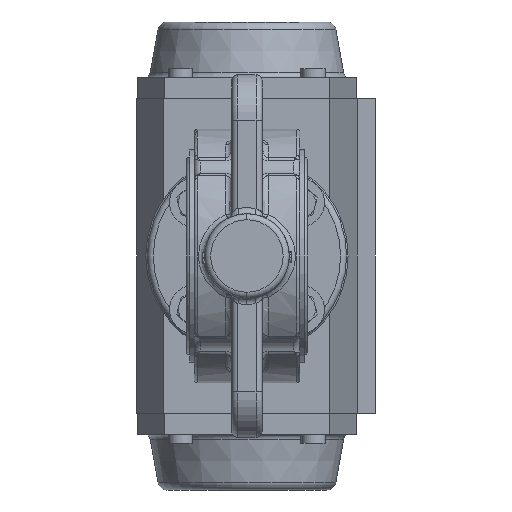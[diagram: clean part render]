
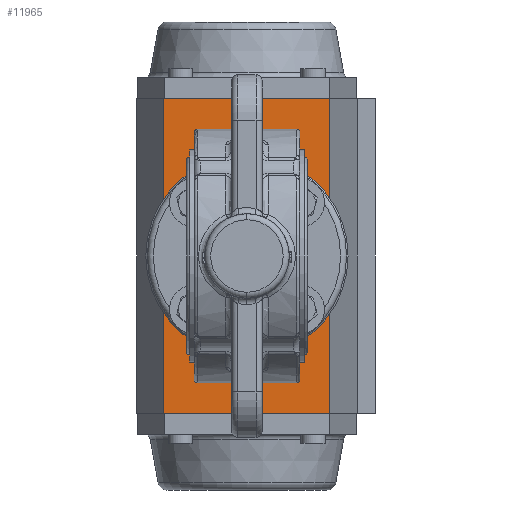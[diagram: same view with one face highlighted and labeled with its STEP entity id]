
A CAD part, front view. The second image highlights one B-rep face of the part: STEP entity #11965.
In plain terms, the highlighted planar face has unit normal (0, -1, 0).
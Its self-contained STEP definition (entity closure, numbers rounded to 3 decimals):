
#33 = LINE ( 'NONE', #4617, #42858 ) ;
#215 = DIRECTION ( 'NONE',  ( 0., 0., -1. ) ) ;
#750 = CARTESIAN_POINT ( 'NONE',  ( -27.5, -41.5, 52. ) ) ;
#1321 = ORIENTED_EDGE ( 'NONE', *, *, #7515, .F. ) ;
#1385 = CARTESIAN_POINT ( 'NONE',  ( -27.5, -41.5, 52. ) ) ;
#1730 = DIRECTION ( 'NONE',  ( 0., -1., 0. ) ) ;
#2357 = CARTESIAN_POINT ( 'NONE',  ( 0., -41.5, -15. ) ) ;
#2567 = AXIS2_PLACEMENT_3D ( 'NONE', #40681, #20516, #215 ) ;
#2726 = CARTESIAN_POINT ( 'NONE',  ( -17.678, -41.5, 17.678 ) ) ;
#2765 = EDGE_CURVE ( 'NONE', #33644, #8585, #14783, .T. ) ;
#2951 = FACE_BOUND ( 'NONE', #16725, .T. ) ;
#3240 = AXIS2_PLACEMENT_3D ( 'NONE', #21992, #1730, #25373 ) ;
#3972 = EDGE_CURVE ( 'NONE', #22118, #15610, #17526, .T. ) ;
#4253 = CARTESIAN_POINT ( 'NONE',  ( 17.678, -41.5, 20.178 ) ) ;
#4617 = CARTESIAN_POINT ( 'NONE',  ( -27.5, -41.5, -52. ) ) ;
#4706 = DIRECTION ( 'NONE',  ( 0., -1., 0. ) ) ;
#4765 = DIRECTION ( 'NONE',  ( 0., -1., 0. ) ) ;
#5081 = CARTESIAN_POINT ( 'NONE',  ( 17.678, -41.5, -20.178 ) ) ;
#5779 = CARTESIAN_POINT ( 'NONE',  ( 27.5, -41.5, -52. ) ) ;
#6090 = DIRECTION ( 'NONE',  ( 0., 0., -1. ) ) ;
#6101 = EDGE_LOOP ( 'NONE', ( #28034, #7208 ) ) ;
#6363 = CARTESIAN_POINT ( 'NONE',  ( 17.678, -41.5, 15.178 ) ) ;
#7020 = AXIS2_PLACEMENT_3D ( 'NONE', #31965, #11790, #35376 ) ;
#7200 = DIRECTION ( 'NONE',  ( 0., -1., 0. ) ) ;
#7208 = ORIENTED_EDGE ( 'NONE', *, *, #43588, .F. ) ;
#7515 = EDGE_CURVE ( 'NONE', #20284, #40256, #23952, .T. ) ;
#7932 = DIRECTION ( 'NONE',  ( 0., -1., 0. ) ) ;
#8170 = DIRECTION ( 'NONE',  ( 1., 0., 0. ) ) ;
#8314 = VERTEX_POINT ( 'NONE', #15871 ) ;
#8585 = VERTEX_POINT ( 'NONE', #4253 ) ;
#8657 = VERTEX_POINT ( 'NONE', #38225 ) ;
#10666 = CARTESIAN_POINT ( 'NONE',  ( -27.5, -41.5, -52. ) ) ;
#10905 = FACE_BOUND ( 'NONE', #19598, .T. ) ;
#11083 = ORIENTED_EDGE ( 'NONE', *, *, #15043, .F. ) ;
#11213 = VERTEX_POINT ( 'NONE', #2357 ) ;
#11398 = DIRECTION ( 'NONE',  ( 0., -1., 0. ) ) ;
#11790 = DIRECTION ( 'NONE',  ( 0., -1., 0. ) ) ;
#11965 = ADVANCED_FACE ( 'NONE', ( #28854, #20979, #2951, #19933, #10905, #37826 ), #31591, .T. ) ;
#12274 = LINE ( 'NONE', #30039, #20221 ) ;
#14237 = ORIENTED_EDGE ( 'NONE', *, *, #14401, .F. ) ;
#14401 = EDGE_CURVE ( 'NONE', #31559, #22118, #17989, .T. ) ;
#14528 = ORIENTED_EDGE ( 'NONE', *, *, #32652, .T. ) ;
#14658 = CARTESIAN_POINT ( 'NONE',  ( -27.5, -41.5, -52. ) ) ;
#14748 = DIRECTION ( 'NONE',  ( 0., -1., 0. ) ) ;
#14783 = CIRCLE ( 'NONE', #19881, 2.5 ) ;
#14948 = CIRCLE ( 'NONE', #38170, 2.5 ) ;
#15043 = EDGE_CURVE ( 'NONE', #8657, #11213, #30060, .T. ) ;
#15202 = DIRECTION ( 'NONE',  ( 0., -1., 0. ) ) ;
#15610 = VERTEX_POINT ( 'NONE', #34160 ) ;
#15871 = CARTESIAN_POINT ( 'NONE',  ( -17.678, -41.5, -15.178 ) ) ;
#16725 = EDGE_LOOP ( 'NONE', ( #34327, #33596 ) ) ;
#17526 = LINE ( 'NONE', #1385, #34385 ) ;
#17776 = ORIENTED_EDGE ( 'NONE', *, *, #34506, .F. ) ;
#17797 = VERTEX_POINT ( 'NONE', #5081 ) ;
#17937 = CIRCLE ( 'NONE', #21578, 2.5 ) ;
#17974 = EDGE_CURVE ( 'NONE', #27233, #8314, #43140, .T. ) ;
#17989 = LINE ( 'NONE', #10666, #34845 ) ;
#18365 = CIRCLE ( 'NONE', #42908, 15. ) ;
#18501 = CARTESIAN_POINT ( 'NONE',  ( 17.678, -41.5, -15.178 ) ) ;
#19066 = AXIS2_PLACEMENT_3D ( 'NONE', #14658, #11398, #34990 ) ;
#19598 = EDGE_LOOP ( 'NONE', ( #23308, #11083 ) ) ;
#19881 = AXIS2_PLACEMENT_3D ( 'NONE', #25022, #4765, #28405 ) ;
#19933 = FACE_BOUND ( 'NONE', #33332, .T. ) ;
#20221 = VECTOR ( 'NONE', #23286, 1000. ) ;
#20284 = VERTEX_POINT ( 'NONE', #39517 ) ;
#20516 = DIRECTION ( 'NONE',  ( 0., -1., 0. ) ) ;
#20874 = DIRECTION ( 'NONE',  ( 0., 0., 1. ) ) ;
#20979 = FACE_BOUND ( 'NONE', #6101, .T. ) ;
#21578 = AXIS2_PLACEMENT_3D ( 'NONE', #35396, #15202, #38783 ) ;
#21992 = CARTESIAN_POINT ( 'NONE',  ( 17.678, -41.5, -17.678 ) ) ;
#22118 = VERTEX_POINT ( 'NONE', #750 ) ;
#22341 = AXIS2_PLACEMENT_3D ( 'NONE', #34933, #14748, #38331 ) ;
#22762 = EDGE_LOOP ( 'NONE', ( #26869, #17776 ) ) ;
#23286 = DIRECTION ( 'NONE',  ( 0., 0., 1. ) ) ;
#23308 = ORIENTED_EDGE ( 'NONE', *, *, #29643, .F. ) ;
#23367 = ORIENTED_EDGE ( 'NONE', *, *, #3972, .F. ) ;
#23952 = CIRCLE ( 'NONE', #24266, 2.5 ) ;
#24266 = AXIS2_PLACEMENT_3D ( 'NONE', #2726, #26366, #6090 ) ;
#24361 = CIRCLE ( 'NONE', #7020, 2.5 ) ;
#24973 = CARTESIAN_POINT ( 'NONE',  ( 0., -41.5, 0. ) ) ;
#25022 = CARTESIAN_POINT ( 'NONE',  ( 17.678, -41.5, 17.678 ) ) ;
#25080 = CIRCLE ( 'NONE', #30393, 2.5 ) ;
#25373 = DIRECTION ( 'NONE',  ( 0., 0., -1. ) ) ;
#25775 = EDGE_CURVE ( 'NONE', #31559, #29030, #33, .T. ) ;
#26325 = CARTESIAN_POINT ( 'NONE',  ( -27.5, -41.5, -52. ) ) ;
#26366 = DIRECTION ( 'NONE',  ( 0., -1., 0. ) ) ;
#26869 = ORIENTED_EDGE ( 'NONE', *, *, #2765, .F. ) ;
#27233 = VERTEX_POINT ( 'NONE', #39502 ) ;
#27439 = CARTESIAN_POINT ( 'NONE',  ( -17.678, -41.5, -17.678 ) ) ;
#27702 = CARTESIAN_POINT ( 'NONE',  ( -17.678, -41.5, 20.178 ) ) ;
#28034 = ORIENTED_EDGE ( 'NONE', *, *, #28349, .F. ) ;
#28159 = CARTESIAN_POINT ( 'NONE',  ( -17.678, -41.5, 17.678 ) ) ;
#28346 = DIRECTION ( 'NONE',  ( 0., 0., -1. ) ) ;
#28349 = EDGE_CURVE ( 'NONE', #17797, #37343, #36933, .T. ) ;
#28405 = DIRECTION ( 'NONE',  ( 0., 0., -1. ) ) ;
#28854 = FACE_BOUND ( 'NONE', #22762, .T. ) ;
#29030 = VERTEX_POINT ( 'NONE', #5779 ) ;
#29643 = EDGE_CURVE ( 'NONE', #11213, #8657, #18365, .T. ) ;
#30039 = CARTESIAN_POINT ( 'NONE',  ( 27.5, -41.5, -52. ) ) ;
#30060 = CIRCLE ( 'NONE', #22341, 15. ) ;
#30393 = AXIS2_PLACEMENT_3D ( 'NONE', #27439, #7200, #30807 ) ;
#30807 = DIRECTION ( 'NONE',  ( 0., 0., -1. ) ) ;
#31544 = DIRECTION ( 'NONE',  ( 0., 0., -1. ) ) ;
#31559 = VERTEX_POINT ( 'NONE', #26325 ) ;
#31591 = PLANE ( 'NONE',  #19066 ) ;
#31965 = CARTESIAN_POINT ( 'NONE',  ( 17.678, -41.5, -17.678 ) ) ;
#32404 = EDGE_CURVE ( 'NONE', #40256, #20284, #14948, .T. ) ;
#32652 = EDGE_CURVE ( 'NONE', #29030, #15610, #12274, .T. ) ;
#33332 = EDGE_LOOP ( 'NONE', ( #1321, #37881 ) ) ;
#33596 = ORIENTED_EDGE ( 'NONE', *, *, #37698, .F. ) ;
#33644 = VERTEX_POINT ( 'NONE', #6363 ) ;
#34160 = CARTESIAN_POINT ( 'NONE',  ( 27.5, -41.5, 52. ) ) ;
#34327 = ORIENTED_EDGE ( 'NONE', *, *, #17974, .F. ) ;
#34385 = VECTOR ( 'NONE', #8170, 1000. ) ;
#34506 = EDGE_CURVE ( 'NONE', #8585, #33644, #17937, .T. ) ;
#34845 = VECTOR ( 'NONE', #20874, 1000. ) ;
#34933 = CARTESIAN_POINT ( 'NONE',  ( 0., -41.5, 0. ) ) ;
#34990 = DIRECTION ( 'NONE',  ( 0., 0., -1. ) ) ;
#35376 = DIRECTION ( 'NONE',  ( 0., 0., -1. ) ) ;
#35396 = CARTESIAN_POINT ( 'NONE',  ( 17.678, -41.5, 17.678 ) ) ;
#36933 = CIRCLE ( 'NONE', #3240, 2.5 ) ;
#37343 = VERTEX_POINT ( 'NONE', #18501 ) ;
#37698 = EDGE_CURVE ( 'NONE', #8314, #27233, #25080, .T. ) ;
#37815 = EDGE_LOOP ( 'NONE', ( #14528, #23367, #14237, #41839 ) ) ;
#37826 = FACE_OUTER_BOUND ( 'NONE', #37815, .T. ) ;
#37881 = ORIENTED_EDGE ( 'NONE', *, *, #32404, .F. ) ;
#38170 = AXIS2_PLACEMENT_3D ( 'NONE', #28159, #7932, #31544 ) ;
#38225 = CARTESIAN_POINT ( 'NONE',  ( 0., -41.5, 15. ) ) ;
#38331 = DIRECTION ( 'NONE',  ( 0., 0., -1. ) ) ;
#38783 = DIRECTION ( 'NONE',  ( 0., 0., -1. ) ) ;
#39502 = CARTESIAN_POINT ( 'NONE',  ( -17.678, -41.5, -20.178 ) ) ;
#39517 = CARTESIAN_POINT ( 'NONE',  ( -17.678, -41.5, 15.178 ) ) ;
#40256 = VERTEX_POINT ( 'NONE', #27702 ) ;
#40681 = CARTESIAN_POINT ( 'NONE',  ( -17.678, -41.5, -17.678 ) ) ;
#41393 = DIRECTION ( 'NONE',  ( 1., 0., 0. ) ) ;
#41839 = ORIENTED_EDGE ( 'NONE', *, *, #25775, .T. ) ;
#42858 = VECTOR ( 'NONE', #41393, 1000. ) ;
#42908 = AXIS2_PLACEMENT_3D ( 'NONE', #24973, #4706, #28346 ) ;
#43140 = CIRCLE ( 'NONE', #2567, 2.5 ) ;
#43588 = EDGE_CURVE ( 'NONE', #37343, #17797, #24361, .T. ) ;
